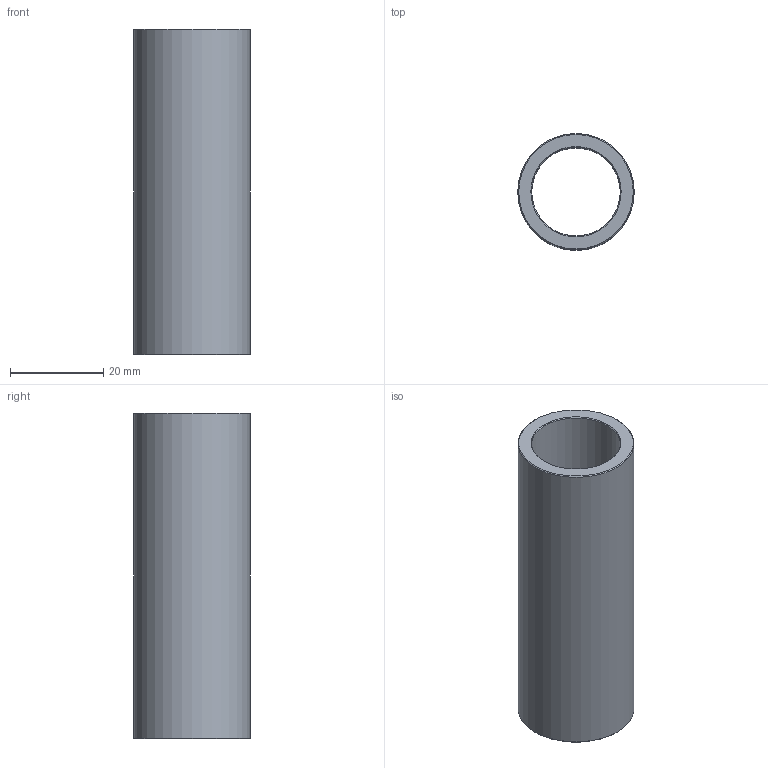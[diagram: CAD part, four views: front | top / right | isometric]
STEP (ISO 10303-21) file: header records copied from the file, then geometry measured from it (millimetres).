
FILE_DESCRIPTION(('STEP AP203'),'1');
FILE_NAME('C:/Users/Rodrigo/Desktop/GA3.019.070-1.step','2016-11-07T13:24:47',(' '),(' '),'Spatial InterOp 3D',' ',' ');
FILE_SCHEMA(('CONFIG_CONTROL_DESIGN'));
Length unit declared in the file: millimetre
Products named in the file (1): 1
Bounding box: 25 x 25 x 70 mm (x, y, z)
Volume: 14508.6 mm3; surface area: 10058.4 mm2
Topology: 1 solids, 1 shells, 8 faces, 14 edges, 8 vertices
Faces by surface type: cone 4, cylinder 2, plane 2
Full cylindrical faces by diameter (mm): 19 x1, 25 x1
Entity records: 212 total; most frequent: DIRECTION 34, CARTESIAN_POINT 25, AXIS2_PLACEMENT_3D 17, EDGE_LOOP 16, ORIENTED_EDGE 16, FACE_OUTER_BOUND 10, ADVANCED_FACE 8, EDGE_CURVE 8
